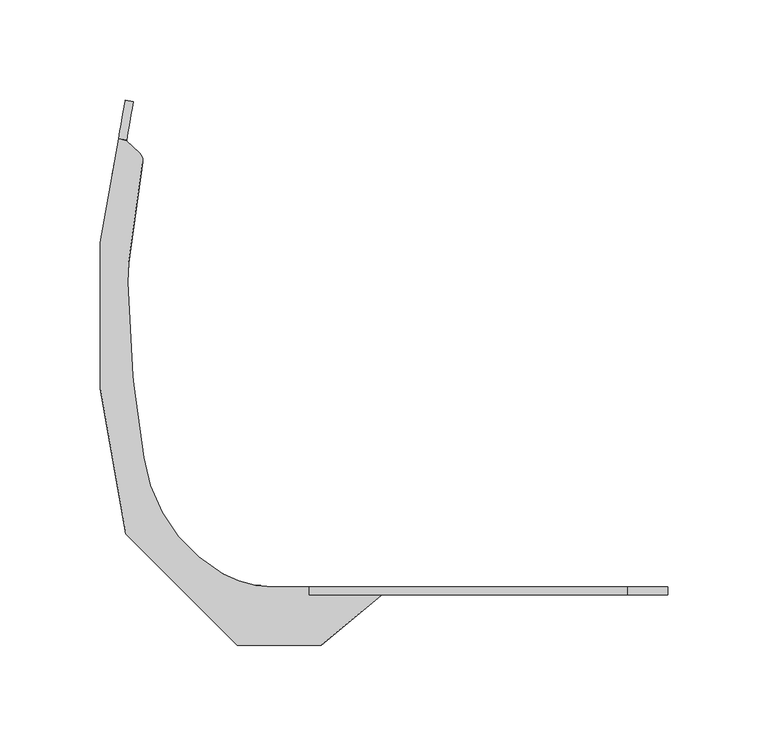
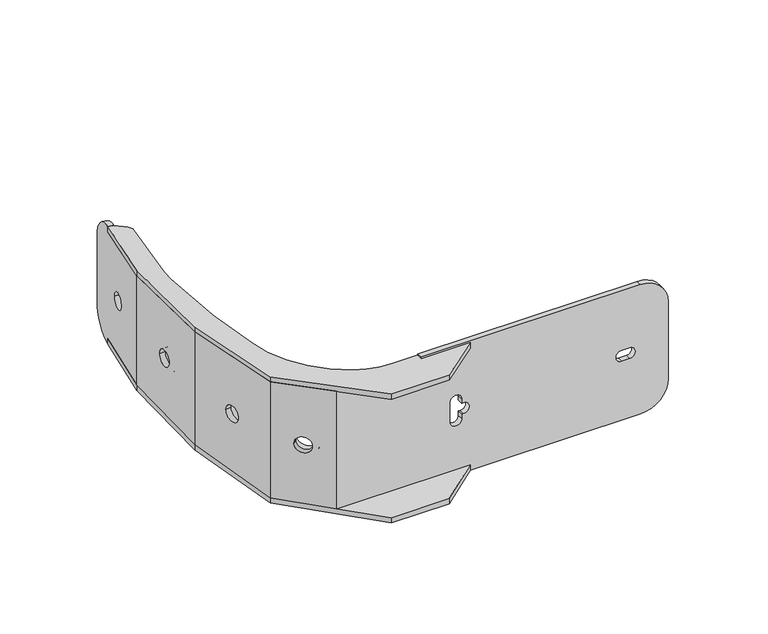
"""IFC4 building model written with IfcOpenShell, lengths in millimetres: proxy geometry, d&b U-Series U7 Horizonzal Bracket : d&b U-Series U7 Horizontal Bracket."""

from ifc_helpers import new_model, si_unit, point, frame, frame_2d, origin, place, context, project, spatial, polyline, circle_curve, trimmed, segment, composite_curve, outline, extrude, source, transform, mapped, element, save
from ifc_brep_helpers import plane_surface, cylinder_surface, revolved_surface, advanced_brep


def communication_devices_85ac5e9e(model_context):
    return source(origin(), model_context, "Body", "SolidModel", [
        extrude(outline(composite_curve([segment(trimmed(circle_curve(frame_2d((0.0, -8.0)), 10.0), [point((0.0, -18.0))], [point((0.0, 2.0))], False, "CARTESIAN"), True, "CONTINUOUS"), segment(trimmed(circle_curve(frame_2d((0.0, -8.0)), 10.0), [point((0.0, 2.0))], [point((0.0, -18.0))], False, "CARTESIAN"), True, "CONTINUOUS")], self_intersect=False), holes=[composite_curve([segment(trimmed(circle_curve(frame_2d((0.0, -8.0)), 8.0), [point((0.0, -16.0000001))], [point((0.0, 0.0))], True, "CARTESIAN"), True, "CONTINUOUS"), segment(trimmed(circle_curve(frame_2d((0.0, -8.0)), 8.0), [point((0.0, 0.0))], [point((0.0, -16.0000001))], True, "CARTESIAN"), True, "CONTINUOUS")], self_intersect=False)]), frame((-179.1103425, -129.295544, 0.0), z_axis=(0.9848077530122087, 0.17364817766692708, 0.0), x_axis=(0.0, 0.0, 1.0)), (0.0, 0.0, 1.0), 7.0),
        extrude(outline(composite_curve([segment(trimmed(circle_curve(frame_2d((-48.2341468, 0.0)), 10.0), [point((-38.2341468, 0.0))], [point((-58.2341468, 0.0))], False, "CARTESIAN"), True, "CONTINUOUS"), segment(trimmed(circle_curve(frame_2d((-48.2341468, 0.0)), 10.0), [point((-58.2341468, 0.0))], [point((-38.2341468, 0.0))], False, "CARTESIAN"), True, "CONTINUOUS")], self_intersect=False), holes=[composite_curve([segment(trimmed(circle_curve(frame_2d((-48.2341468, 0.0)), 8.0), [point((-40.2341468, 0.0))], [point((-56.2341468, 0.0))], True, "CARTESIAN"), True, "CONTINUOUS"), segment(trimmed(circle_curve(frame_2d((-48.2341468, 0.0)), 8.0), [point((-56.2341468, 0.0))], [point((-40.2341468, 0.0))], True, "CARTESIAN"), True, "CONTINUOUS")], self_intersect=False)]), frame((-186.7433738, 0.0, 0.0), z_axis=(1.0, 0.0, 0.0), x_axis=(0.0, 1.0, 0.0)), (0.0, 0.0, 1.0), 7.0),
        extrude(outline(composite_curve([segment(trimmed(circle_curve(frame_2d((0.0, -8.0)), 10.0), [point((0.0, -17.9999999))], [point((0.0, 2.0000001))], False, "CARTESIAN"), True, "CONTINUOUS"), segment(trimmed(circle_curve(frame_2d((0.0, -8.0)), 10.0), [point((0.0, 2.0000001))], [point((0.0, -17.9999999))], False, "CARTESIAN"), True, "CONTINUOUS")], self_intersect=False), holes=[composite_curve([segment(trimmed(circle_curve(frame_2d((0.0, -8.0)), 8.0), [point((0.0, -15.9999999))], [point((0.0, 0.0))], True, "CARTESIAN"), True, "CONTINUOUS"), segment(trimmed(circle_curve(frame_2d((0.0, -8.0)), 8.0), [point((0.0, 0.0))], [point((0.0, -15.9999999))], True, "CARTESIAN"), True, "CONTINUOUS")], self_intersect=False)]), frame((-172.5403758, 26.1910964, 0.0), z_axis=(-0.9848077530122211, 0.17364817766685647, 0.0), x_axis=(0.0, 0.0, 1.0)), (0.0, 0.0, 1.0), 7.0),
        advanced_brep(
        [(-86.5301103, -189.1969022, 49.6936948), (-86.5301103, -189.1969022, 44.8145921), (-147.5432129, -189.1969022, 44.8145921), (-147.5432129, -189.1969022, -44.8145921), (-86.5301103, -189.1969022, -44.8145921), (-86.5301103, -189.1969022, -49.2515679), (72.0435663, -189.1969022, -49.2515679), (92.0435663, -189.1969022, -29.2515679), (92.0435663, -189.1969022, 29.6936948), (72.0435663, -189.1969022, 49.6936948), (64.0435663, -189.1969022, -4.15), (58.5435663, -189.1969022, -4.15), (58.5435663, -189.1969022, 4.15), (64.0435663, -189.1969022, 4.15), (-65.374869, -189.1969022, 7.5791762), (-57.2122636, -189.1969022, 7.5791762), (-57.2122636, -189.1969022, 4.15), (-55.9564337, -189.1969022, 4.15), (-55.9564337, -189.1969022, -4.15), (-57.2122636, -189.1969022, -4.15), (-57.2122636, -189.1969022, -7.5791762), (-65.374869, -189.1969022, -7.5791762), (-86.5301103, -185.1969022, -49.2515679), (-86.5301103, -185.1969022, -44.7447719), (-145.8864712, -185.1969022, -44.7447719), (-145.8864712, -185.1969022, 44.7447719), (-86.5301103, -185.1969022, 44.7447719), (-86.5301103, -185.1969022, 49.6936948), (72.0435663, -185.1969022, 49.6936948), (92.0435663, -185.1969022, 29.6936948), (92.0435663, -185.1969022, -29.2515679), (72.0435663, -185.1969022, -49.2515679), (64.0435663, -185.1969022, -4.15), (64.0435663, -185.1969022, 4.15), (58.5435663, -185.1969022, 4.15), (58.5435663, -185.1969022, -4.15), (-65.374869, -185.1969022, 7.5791762), (-65.374869, -185.1969022, -7.5791762), (-57.2122636, -185.1969022, -7.5791762), (-57.2122636, -185.1969022, -4.15), (-55.9564337, -185.1969022, -4.15), (-55.9564337, -185.1969022, 4.15), (-57.2122636, -185.1969022, 4.15), (-57.2122636, -185.1969022, 7.5791762), (-174.2556821, -156.8276912, -44.2495855), (-186.7433738, -86.0064727, -43.0133965), (-186.7433738, -86.0064727, 43.0133965), (-174.2556821, -156.8276912, 44.2495855), (-181.541417, -115.5082354, 0.0), (-179.4576389, -127.3259285, 0.0), (-186.7433738, -14.1215635, -41.7586407), (-186.7433738, -14.1215635, 41.7586407), (-186.7433738, -42.2341468, 0.0), (-186.7433738, -54.2341468, 0.0), (-190.7433738, -13.4162555, -41.7463295), (-190.7433738, -13.4162555, 41.7463295), (-190.7433738, -86.3564274, -43.019505), (-190.7433738, -86.3564274, 43.019505), (-190.7433738, -54.2341468, 0.0), (-190.7433738, -42.2341468, 0.0), (-177.975933, -158.7641821, -44.283387), (-177.975933, -158.7641821, 44.283387), (-183.3968699, -128.0205212, 0.0), (-185.480648, -116.2028282, 0.0), (-158.6568068, -178.0833083, 0.0), (-167.1420882, -169.5980269, 0.0), (-164.3137174, -166.769656, 0.0), (-155.828436, -175.2549374, 0.0)],
        [
            (0, 1),
            (1, 2),
            (2, 3),
            (3, 4),
            (4, 5),
            (5, 6),
            (6, 7, circle_curve(frame((72.0435663, -189.1969022, -29.2515679), z_axis=(0.0, -1.0, 0.0), x_axis=(1.0, 0.0, 0.0)), 20.0)),
            (7, 8),
            (8, 9, circle_curve(frame((72.0435663, -189.1969022, 29.6936948), z_axis=(0.0, -1.0, 0.0), x_axis=(1.0, 0.0, 0.0)), 20.0)),
            (9, 0),
            (10, 11),
            (11, 12, circle_curve(frame((58.5435663, -189.1969022, 0.0), z_axis=(0.0, 1.0, 0.0), x_axis=(-1.0, 0.0, 0.0)), 4.15)),
            (12, 13),
            (13, 10, circle_curve(frame((64.0435663, -189.1969022, 0.0), z_axis=(0.0, 1.0, 0.0), x_axis=(-1.0, 0.0, 0.0)), 4.15)),
            (14, 15, circle_curve(frame((-61.2935663, -189.1969022, 7.5791762), z_axis=(0.0, 1.0, 0.0), x_axis=(1.0, 0.0, 0.0)), 4.0813027)),
            (15, 16),
            (16, 17),
            (17, 18, circle_curve(frame((-55.9564337, -189.1969022, 0.0), z_axis=(0.0, 1.0, 0.0), x_axis=(0.0, 0.0, -1.0)), 4.15)),
            (18, 19),
            (19, 20),
            (20, 21, circle_curve(frame((-61.2935663, -189.1969022, -7.5791762), z_axis=(0.0, 1.0, 0.0), x_axis=(1.0, 0.0, 0.0)), 4.0813027)),
            (21, 14),
            (22, 23),
            (23, 24),
            (24, 25),
            (25, 26),
            (26, 27),
            (27, 28),
            (28, 29, circle_curve(frame((72.0435663, -185.1969022, 29.6936948), z_axis=(0.0, 1.0, 0.0), x_axis=(1.0, 0.0, 0.0)), 20.0)),
            (29, 30),
            (30, 31, circle_curve(frame((72.0435663, -185.1969022, -29.2515679), z_axis=(0.0, 1.0, 0.0), x_axis=(1.0, 0.0, 0.0)), 20.0)),
            (31, 22),
            (32, 33, circle_curve(frame((64.0435663, -185.1969022, 0.0), z_axis=(0.0, -1.0, 0.0), x_axis=(-1.0, 0.0, 0.0)), 4.15)),
            (33, 34),
            (34, 35, circle_curve(frame((58.5435663, -185.1969022, 0.0), z_axis=(0.0, -1.0, 0.0), x_axis=(-1.0, 0.0, 0.0)), 4.15)),
            (35, 32),
            (36, 37),
            (37, 38, circle_curve(frame((-61.2935663, -185.1969022, -7.5791762), z_axis=(0.0, -1.0, 0.0), x_axis=(1.0, 0.0, 0.0)), 4.0813027)),
            (38, 39),
            (39, 40),
            (40, 41, circle_curve(frame((-55.9564337, -185.1969022, 0.0), z_axis=(0.0, -1.0, 0.0), x_axis=(0.0, 0.0, -1.0)), 4.15)),
            (41, 42),
            (42, 43),
            (43, 36, circle_curve(frame((-61.2935663, -185.1969022, 7.5791762), z_axis=(0.0, -1.0, 0.0), x_axis=(1.0, 0.0, 0.0)), 4.0813027)),
            (44, 45),
            (45, 46),
            (46, 47),
            (47, 44),
            (48, 49, circle_curve(frame((-180.499528, -121.417082, 0.0), z_axis=(-0.9848077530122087, -0.1736481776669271, 0.0), x_axis=(0.1736481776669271, -0.9848077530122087, 0.0)), 6.0)),
            (49, 48, circle_curve(frame((-180.499528, -121.417082, 0.0), z_axis=(-0.9848077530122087, -0.1736481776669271, 0.0), x_axis=(0.1736481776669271, -0.9848077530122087, 0.0)), 6.0)),
            (45, 50),
            (50, 51),
            (51, 46),
            (52, 53, circle_curve(frame((-186.7433738, -48.2341468, 0.0), z_axis=(-1.0, 0.0, 0.0), x_axis=(0.0, -1.0, 0.0)), 6.0)),
            (53, 52, circle_curve(frame((-186.7433738, -48.2341468, 0.0), z_axis=(-1.0, 0.0, 0.0), x_axis=(0.0, -1.0, 0.0)), 6.0)),
            (50, 54),
            (54, 55),
            (55, 51),
            (54, 56),
            (56, 57),
            (57, 55),
            (58, 59, circle_curve(frame((-190.7433738, -48.2341468, 0.0), z_axis=(1.0, 0.0, 0.0), x_axis=(0.0, -1.0, 0.0)), 6.0)),
            (59, 58, circle_curve(frame((-190.7433738, -48.2341468, 0.0), z_axis=(1.0, 0.0, 0.0), x_axis=(0.0, -1.0, 0.0)), 6.0)),
            (56, 60),
            (60, 61),
            (61, 57),
            (62, 63, circle_curve(frame((-184.438759, -122.1116747, 0.0), z_axis=(0.9848077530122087, 0.1736481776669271, 0.0), x_axis=(0.1736481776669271, -0.9848077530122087, 0.0)), 6.0)),
            (63, 62, circle_curve(frame((-184.438759, -122.1116747, 0.0), z_axis=(0.9848077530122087, 0.1736481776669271, 0.0), x_axis=(0.1736481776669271, -0.9848077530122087, 0.0)), 6.0)),
            (2, 61),
            (60, 3),
            (64, 65, circle_curve(frame((-162.8994475, -173.8406676, 0.0), z_axis=(0.707106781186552, 0.7071067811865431, 0.0), x_axis=(0.7071067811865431, -0.707106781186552, 0.0)), 6.0)),
            (65, 64, circle_curve(frame((-162.8994475, -173.8406676, 0.0), z_axis=(0.707106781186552, 0.7071067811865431, 0.0), x_axis=(0.7071067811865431, -0.707106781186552, 0.0)), 6.0)),
            (47, 25),
            (24, 44),
            (66, 67, circle_curve(frame((-160.0710767, -171.0122967, 0.0), z_axis=(-0.707106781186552, -0.7071067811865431, 0.0), x_axis=(0.7071067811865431, -0.707106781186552, 0.0)), 6.0)),
            (67, 66, circle_curve(frame((-160.0710767, -171.0122967, 0.0), z_axis=(-0.707106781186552, -0.7071067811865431, 0.0), x_axis=(0.7071067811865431, -0.707106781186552, 0.0)), 6.0)),
            (53, 58),
            (59, 52),
            (23, 4),
            (1, 26),
            (35, 11),
            (10, 32),
            (34, 12),
            (33, 13),
            (43, 15),
            (14, 36),
            (42, 16),
            (41, 17),
            (40, 18),
            (39, 19),
            (38, 20),
            (37, 21),
            (29, 8),
            (7, 30),
            (28, 9),
            (27, 0),
            (31, 6),
            (5, 22),
            (49, 62),
            (63, 48),
            (65, 66),
            (67, 64),
        ],
        [
            plane_surface(frame((-147.5432129, -189.1969022, -70.0), z_axis=(0.0, -1.0, 0.0), x_axis=(0.0, 0.0, 1.0))),
            plane_surface(frame((-86.5301103, -185.1969022, -70.0), z_axis=(0.0, 1.0, 0.0), x_axis=(0.0, 0.0, 1.0))),
            plane_surface(frame((-174.2556821, -156.8276912, -70.0), z_axis=(0.9848077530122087, 0.17364817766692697, 0.0), x_axis=(0.0, 0.0, 1.0))),
            plane_surface(frame((-186.7433738, -86.0064727, -70.0), z_axis=(1.0, 0.0, 0.0), x_axis=(0.0, 0.0, 1.0))),
            plane_surface(frame((-186.7433738, -14.1215635, -70.0), z_axis=(0.17364817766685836, 0.9848077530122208, 0.0), x_axis=(0.0, 0.0, 1.0))),
            plane_surface(frame((-190.7433738, -13.4162555, -70.0), z_axis=(-1.0, 0.0, 0.0), x_axis=(0.0, 0.0, 1.0))),
            plane_surface(frame((-190.7433738, -86.3564274, -70.0), z_axis=(-0.9848077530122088, -0.17364817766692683, 0.0), x_axis=(0.0, 0.0, 1.0))),
            plane_surface(frame((-177.975933, -158.7641821, -70.0), z_axis=(-0.7071067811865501, -0.707106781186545, 0.0), x_axis=(0.0, 0.0, 1.0))),
            plane_surface(frame((-145.8864712, -185.1969022, -70.0), z_axis=(0.707106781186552, 0.707106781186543, 0.0), x_axis=(0.0, 0.0, 1.0))),
            revolved_surface(polyline([(-190.7433738, -54.2341468, 0.0), (-186.7433738, -54.2341468, 0.0)]), (-181.7433738, -48.2341468, 0.0), (-1.0, 0.0, 0.0)),
            plane_surface(frame((-86.5301103, -214.2661289, -45.2521771), z_axis=(0.0, 0.017452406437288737, -0.9998476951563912), x_axis=(-1.0, 0.0, 0.0))),
            plane_surface(frame((-86.5301103, 38.2717368, 40.8441123), z_axis=(0.0, 0.017452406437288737, 0.9998476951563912), x_axis=(-1.0, 0.0, 0.0))),
            plane_surface(frame((64.0435663, -185.1969022, -4.15), z_axis=(0.0, 0.0, 1.0), x_axis=(0.0, -1.0, 0.0))),
            revolved_surface(polyline([(54.3935663, -189.1969022, 0.0), (54.3935663, -185.1969022, 0.0)]), (58.5435663, -185.1969022, 0.0), (0.0, -1.0, 0.0)),
            plane_surface(frame((58.5435663, -185.1969022, 4.15), z_axis=(0.0, 0.0, -1.0), x_axis=(0.0, -1.0, 0.0))),
            revolved_surface(polyline([(59.893566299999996, -189.1969022, 0.0), (59.893566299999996, -185.1969022, 0.0)]), (64.0435663, -185.1969022, 0.0), (0.0, -1.0, 0.0)),
            revolved_surface(polyline([(-57.2122636, -189.1969022, 7.5791762), (-57.2122636, -185.1969022, 7.5791762)]), (-61.2935663, -185.1969022, 7.5791762), (0.0, -1.0, 0.0)),
            plane_surface(frame((-57.2122636, -185.1969022, 7.5791762), z_axis=(-1.0, 0.0, 0.0), x_axis=(0.0, -1.0, 0.0))),
            plane_surface(frame((-57.2122636, -185.1969022, 4.15), z_axis=(0.0, 0.0, -1.0), x_axis=(0.0, -1.0, 0.0))),
            revolved_surface(polyline([(-55.9564337, -189.1969022, -4.15), (-55.9564337, -185.1969022, -4.15)]), (-55.9564337, -185.1969022, 0.0), (0.0, -1.0, 0.0)),
            plane_surface(frame((-55.9564337, -185.1969022, -4.15), z_axis=(0.0, 0.0, 1.0), x_axis=(0.0, -1.0, 0.0))),
            plane_surface(frame((-57.2122636, -185.1969022, -4.15), z_axis=(-1.0, 0.0, 0.0), x_axis=(0.0, -1.0, 0.0))),
            revolved_surface(polyline([(-57.2122636, -189.1969022, -7.5791762), (-57.2122636, -185.1969022, -7.5791762)]), (-61.2935663, -185.1969022, -7.5791762), (0.0, -1.0, 0.0)),
            plane_surface(frame((-65.374869, -185.1969022, -7.5791762), z_axis=(1.0, 0.0, 0.0), x_axis=(0.0, -1.0, 0.0))),
            plane_surface(frame((92.0435663, -185.1969022, -29.2515679), z_axis=(1.0, 0.0, 0.0), x_axis=(0.0, -1.0, 0.0))),
            cylinder_surface(frame((72.0435663, -189.1969022, 29.6936948), z_axis=(0.0, 1.0, 0.0), x_axis=(1.0, 0.0, 0.0)), 20.0),
            plane_surface(frame((72.0435663, -185.1969022, 49.6936948), z_axis=(0.0, 0.0, 1.0), x_axis=(0.0, -1.0, 0.0))),
            plane_surface(frame((-86.5301103, -185.1969022, -49.2515679), z_axis=(0.0, 0.0, -1.0), x_axis=(0.0, -1.0, 0.0))),
            cylinder_surface(frame((72.0435663, -189.1969022, -29.2515679), z_axis=(0.0, 1.0, 0.0), x_axis=(1.0, 0.0, 0.0)), 20.0),
            plane_surface(frame((-86.5301103, 37.584076, -40.8561154), z_axis=(-1.0, 0.0, 0.0), x_axis=(0.0, 0.9998476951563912, 0.017452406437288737))),
            revolved_surface(polyline([(-183.39686993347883, -128.02052122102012, 0.0), (-179.4576388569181, -127.32592849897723, 0.0)]), (-175.5754892, -120.5488411, 0.0), (-0.9848077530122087, -0.1736481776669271, 0.0)),
            revolved_surface(polyline([(-155.8284360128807, -175.2549373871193, 0.0), (-158.65680686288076, -178.08330823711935, 0.0)]), (-163.6066106, -174.5478306, 0.0), (0.707106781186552, 0.7071067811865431, 0.0)),
        ],
        [
            (0, [[1, 2, 3, 4, 5, 6, 7, 8, 9, 10], [11, 12, 13, 14], [15, 16, 17, 18, 19, 20, 21, 22]]),
            (1, [[23, 24, 25, 26, 27, 28, 29, 30, 31, 32], [33, 34, 35, 36], [37, 38, 39, 40, 41, 42, 43, 44]]),
            (2, [[45, 46, 47, 48], [49, 50]]),
            (3, [[51, 52, 53, -46], [54, 55]]),
            (4, [[56, 57, 58, -52]]),
            (5, [[59, 60, 61, -57], [62, 63]]),
            (6, [[64, 65, 66, -60], [67, 68]]),
            (7, [[69, -65, 70, -3], [71, 72]]),
            (8, [[73, -25, 74, -48], [75, 76]]),
            (9, [[-55, 77, -63, 78]]),
            (9, [[-62, -77, -54, -78]]),
            (10, [[-4, -70, -64, -59, -56, -51, -45, -74, -24, 79]]),
            (11, [[-26, -73, -47, -53, -58, -61, -66, -69, -2, 80]]),
            (12, [[81, -11, 82, -36]]),
            (13, [[83, -12, -81, -35]]),
            (14, [[84, -13, -83, -34]]),
            (15, [[-82, -14, -84, -33]]),
            (16, [[85, -15, 86, -44]]),
            (17, [[87, -16, -85, -43]]),
            (18, [[88, -17, -87, -42]]),
            (19, [[89, -18, -88, -41]]),
            (20, [[90, -19, -89, -40]]),
            (21, [[91, -20, -90, -39]]),
            (22, [[92, -21, -91, -38]]),
            (23, [[-86, -22, -92, -37]]),
            (24, [[93, -8, 94, -30]]),
            (25, [[95, -9, -93, -29]]),
            (26, [[96, -10, -95, -28]]),
            (27, [[97, -6, 98, -32]]),
            (28, [[-94, -7, -97, -31]]),
            (29, [[-1, -96, -27, -80]]),
            (29, [[-23, -98, -5, -79]]),
            (30, [[-50, 99, -68, 100]]),
            (30, [[-67, -99, -49, -100]]),
            (31, [[-72, 101, -76, 102]]),
            (31, [[-75, -101, -71, -102]]),
        ],
    ),
        extrude(outline(composite_curve([segment(polyline([(-1.6481785, 0.0), (-5.7339399, 0.0), (-5.7339399, -35.7975991), (-30.7218333, -6.0181875), (-30.7218333, 35.9435577), (24.7889318, 91.4458682), (97.2074583, 104.2132635), (170.1570867, 104.2132635), (221.8800361, 95.094535), (221.0478817, 91.179556), (214.7959652, 84.6130442)]), True, "CONTINUOUS"), segment(trimmed(circle_curve(frame_2d((210.9949922, 88.2319162)), 5.2482026), [point((214.7959652, 84.6130442))], [point((210.3185112, 83.0274945))], False, "CARTESIAN"), True, "CONTINUOUS"), segment(polyline([(210.3185112, 83.0274945), (160.0710189, 90.0893191)]), True, "CONTINUOUS"), segment(trimmed(circle_curve(frame_2d((153.1123639, 40.5759156)), 50.0), [point((160.0710189, 90.0893191))], [point((150.495566, 90.5073924))], True, "CARTESIAN"), True, "CONTINUOUS"), segment(polyline([(150.495566, 90.5073924), (103.530905, 88.0460788)]), True, "CONTINUOUS"), segment(trimmed(circle_curve(frame_2d((106.1477028, 38.114602)), 50.0), [point((103.530905, 88.0460788))], [point((99.1890478, 87.6280055))], True, "CARTESIAN"), True, "CONTINUOUS"), segment(polyline([(99.1890478, 87.6280055), (63.008112, 82.5431066)]), True, "CONTINUOUS"), segment(trimmed(circle_curve(frame_2d((74.091497, 3.6807247)), 79.6374076), [point((63.008112, 82.5431066))], [point((4.9275184, 43.1580696))], True, "CARTESIAN"), True, "CONTINUOUS"), segment(trimmed(circle_curve(frame_2d((48.3518215, 18.3723903)), 50.0), [point((4.9275184, 43.1580696))], [point((-1.6481785, 18.3723903))], True, "CARTESIAN"), True, "CONTINUOUS"), segment(polyline([(-1.6481785, 18.3723903), (-1.6481785, 0.0)]), True, "CONTINUOUS")], self_intersect=False)), frame((-86.5301103, -183.5489747, 44.7160072), z_axis=(0.0, 0.017452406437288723, 0.9998476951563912), x_axis=(0.0, 0.9998476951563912, -0.017452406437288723)), (0.0, 0.0, 1.0), 4.0),
        extrude(outline(composite_curve([segment(polyline([(-59.3563609, 0.0), (-59.3563609, 4.0857615), (-95.15396, 4.0857615), (-65.3745484, 29.0736548), (-23.4128032, 29.0736548), (32.0895073, -26.4371103), (44.8569026, -98.8556367), (44.8569026, -171.8052652), (35.7381741, -223.5282145), (31.8231951, -222.6960601), (25.2566833, -216.4441436)]), True, "CONTINUOUS"), segment(trimmed(circle_curve(frame_2d((28.8755553, -212.6431706)), 5.2482026), [point((25.2566833, -216.4441436))], [point((23.6711336, -211.9666897))], False, "CARTESIAN"), True, "CONTINUOUS"), segment(polyline([(23.6711336, -211.9666897), (30.7329582, -161.7191973)]), True, "CONTINUOUS"), segment(trimmed(circle_curve(frame_2d((-18.7804453, -154.7605423)), 50.0), [point((30.7329582, -161.7191973))], [point((31.1510315, -152.1437444))], True, "CARTESIAN"), True, "CONTINUOUS"), segment(polyline([(31.1510315, -152.1437444), (28.6897179, -105.1790835)]), True, "CONTINUOUS"), segment(trimmed(circle_curve(frame_2d((-21.2417589, -107.7958812)), 50.0), [point((28.6897179, -105.1790835))], [point((28.2716446, -100.8372262))], True, "CARTESIAN"), True, "CONTINUOUS"), segment(polyline([(28.2716446, -100.8372262), (23.1867457, -64.6562905)]), True, "CONTINUOUS"), segment(trimmed(circle_curve(frame_2d((-55.6756362, -75.7396754)), 79.6374076), [point((23.1867457, -64.6562905))], [point((-16.1982913, -6.5756968))], True, "CARTESIAN"), True, "CONTINUOUS"), segment(trimmed(circle_curve(frame_2d((-40.9839706, -49.9999999)), 50.0), [point((-16.1982913, -6.5756968))], [point((-40.9839706, 0.0))], True, "CARTESIAN"), True, "CONTINUOUS"), segment(polyline([(-40.9839706, 0.0), (-59.3563609, 0.0)]), True, "CONTINUOUS")], self_intersect=False)), frame((-145.8864712, -185.1270925, -48.7441627), z_axis=(0.0, -0.017452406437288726, 0.9998476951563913), x_axis=(-1.0, 0.0, 0.0)), (0.0, 0.0, 1.0), 4.0),
        extrude(outline(composite_curve([segment(trimmed(circle_curve(frame_2d((0.0, -8.0)), 10.0), [point((0.0, -18.0))], [point((0.0, 2.0))], False, "CARTESIAN"), True, "CONTINUOUS"), segment(trimmed(circle_curve(frame_2d((0.0, -8.0)), 10.0), [point((0.0, 2.0))], [point((0.0, -18.0))], False, "CARTESIAN"), True, "CONTINUOUS")], self_intersect=False), holes=[composite_curve([segment(trimmed(circle_curve(frame_2d((0.0, -8.0)), 8.0), [point((0.0, -16.0))], [point((0.0, 0.0))], True, "CARTESIAN"), True, "CONTINUOUS"), segment(trimmed(circle_curve(frame_2d((0.0, -8.0)), 8.0), [point((0.0, 0.0))], [point((0.0, -16.0))], True, "CARTESIAN"), True, "CONTINUOUS")], self_intersect=False)]), frame((-154.4142224, -176.6691509, 0.0), z_axis=(0.707106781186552, 0.7071067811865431, 0.0), x_axis=(0.0, 0.0, 1.0)), (0.0, 0.0, 1.0), 7.0),
        extrude(outline(composite_curve([segment(polyline([(43.618491, 1e-07), (-8.9709801, 0.0), (-8.9013863, -3.9996385)]), True, "CONTINUOUS"), segment(trimmed(circle_curve(frame_2d((-8.7811399, 16.0000001)), 20.0), [point((-8.9013863, -3.9996385))], [point((-28.778113, 15.6520524))], False, "CARTESIAN"), True, "CONTINUOUS"), segment(polyline([(-28.778113, 15.6520524), (-29.6456134, 65.5083411)]), True, "CONTINUOUS"), segment(trimmed(circle_curve(frame_2d((-9.6486403, 65.8562888)), 20.0), [point((-29.6456134, 65.5083411))], [point((-10.4645914, 85.8396375))], False, "CARTESIAN"), True, "CONTINUOUS"), segment(polyline([(-10.4645914, 85.8396375), (-10.3935409, 81.756281), (42.1642871, 83.5748466), (43.618491, 1e-07)]), True, "CONTINUOUS")], self_intersect=False), holes=[composite_curve([segment(trimmed(circle_curve(frame_2d((8.7291912, 41.2403718)), 6.0), [point((2.7300993, 41.1359875))], [point((14.7282831, 41.3447561))], True, "CARTESIAN"), True, "CONTINUOUS"), segment(trimmed(circle_curve(frame_2d((8.7291912, 41.2403718)), 6.0), [point((14.7282831, 41.3447561))], [point((2.7300993, 41.1359875))], True, "CARTESIAN"), True, "CONTINUOUS")], self_intersect=False)]), frame((-179.2310176, 28.8384786, -41.0822651), z_axis=(-0.984807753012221, 0.17364817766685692, 0.0), x_axis=(-0.1736218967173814, -0.9846587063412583, -0.017397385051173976)), (0.0, 0.0, 1.0), 4.0),
    ])


if __name__ == "__main__":
    model = new_model("IFC4")
    model_context = context("Model", 3, world=origin())
    ifc_project = project(units=[si_unit("LENGTHUNIT", "METRE", prefix="MILLI")], contexts=[model_context])
    site = spatial("IfcSite", under=ifc_project)
    building = spatial("IfcBuilding", under=site)
    placement = place(None, origin())
    communication_devices_shape = communication_devices_85ac5e9e(model_context)
    element("IfcBuildingElementProxy", 1, Name="d&b U-Series U7 Horizonzal Bracket : d&b U-Series U7 Horizontal Bracket", ObjectType="d&b U-Series U7 Horizonzal Bracket : d&b U-Series U7 Horizontal Bracket", at=placement, inside=building, context=model_context, shape_type="MappedRepresentation", body=[
        mapped(communication_devices_shape, transform((0.0, 0.0, 0.0), x_axis=(1.0, 0.0, 0.0), y_axis=(0.0, 1.0, 0.0), z_axis=(0.0, 0.0, 1.0))),
    ])
    save(model, "model.ifc")
